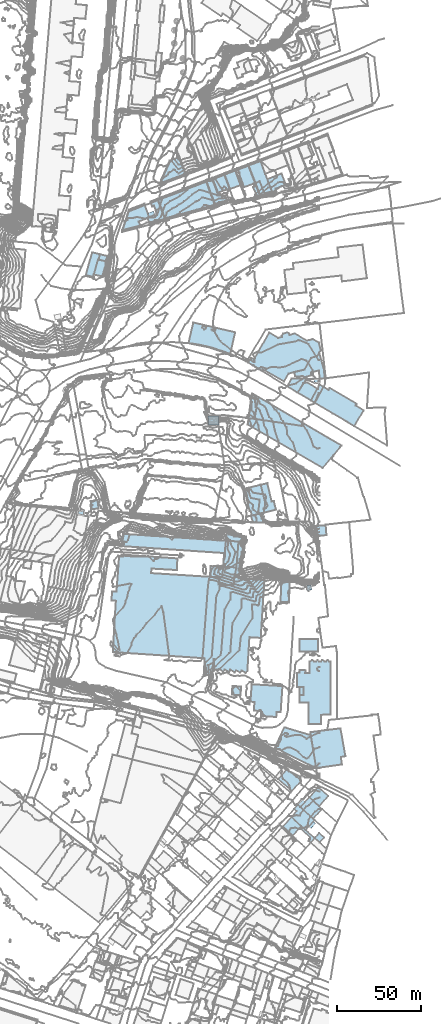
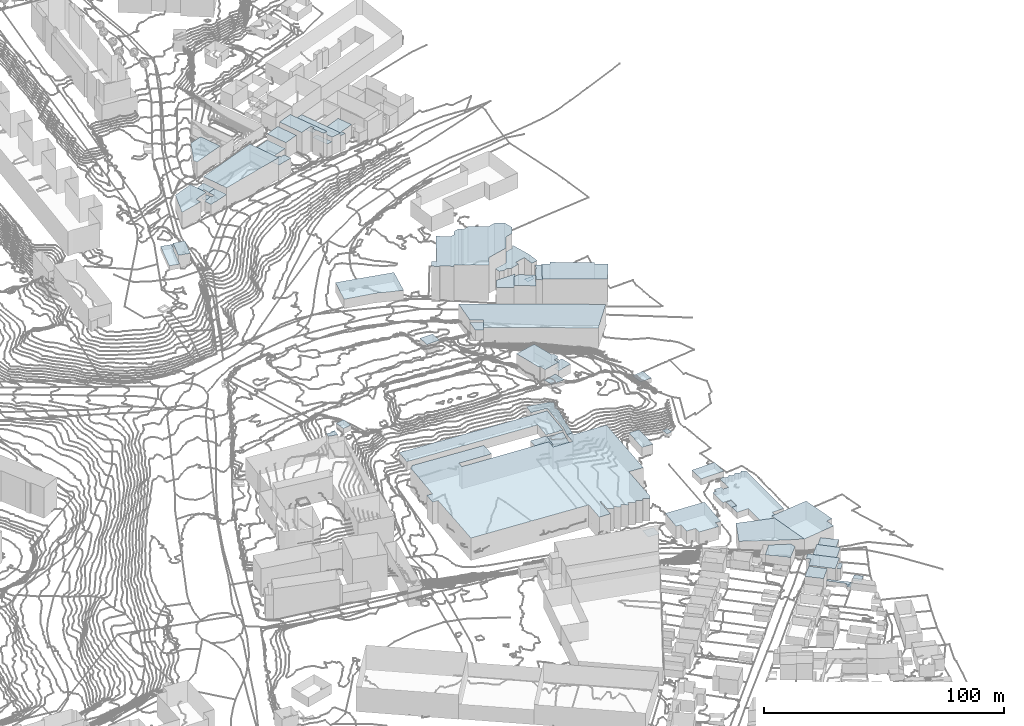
# Not in any storey, part 85 of 419: 56 roofs.
"""IFC2X3 model written with IfcOpenShell, lengths in metres."""

from ifc_helpers import new_model, si_unit, frame, origin_with_axes, place, context, subcontext, project, faceted_brep, element, save


model = new_model("IFC2X3")

# Units and contexts
model_context = context("Model", 3, precision=1e-05, world=origin_with_axes())
body_context = subcontext(model_context, "Body", "Model", "MODEL_VIEW")
ifc_project = project(units=[si_unit("AREAUNIT", "SQUARE_METRE"), si_unit("LENGTHUNIT", "METRE")], contexts=[model_context])

# Roofs
roof_1_placement = place(None, frame((853.2920204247, 416.1976909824, 67.9707989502), z_axis=(0.0, 0.0, 1.0), x_axis=(1.0, 0.0, 0.0)))
element("IfcRoof", 1, at=roof_1_placement, Name="Toiture 0", ShapeType="NOTDEFINED", context=body_context, shape_type="Brep", body=[
    faceted_brep([(63.9, 13.6000000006, 11.4292010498), (58.4, 14.0, 11.4292010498), (23.5, 16.2000000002, 11.4292010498), (23.7000000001, 18.9000000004, 11.4292010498), (38.8, 18.0, 11.4292010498), (39.1000000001, 24.9000000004, 11.4292010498), (6.0, 27.2000000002, 11.4292010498), (4.5, 25.9000000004, 11.4292010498), (3.0, 5.2000000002, 11.4292010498), (0.4, 5.4000000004, 11.4292010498), (0.0, 0.0, 11.4292010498), (2.6000000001, -0.2000000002, 11.4292010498), (0.8, -30.5999999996, 11.4292010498), (55.3, -34.2999999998, 11.4292010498), (54.7000000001, -44.2000000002, 11.4292010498), (59.9, -44.3999999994, 11.4292010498), (61.0, -34.5999999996, 11.4292010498), (60.6000000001, -40.3999999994, 11.4292010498), (63.0, -41.8999999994, 11.4292010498), (63.8, -40.7000000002, 11.4292010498), (66.2000000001, -42.2000000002, 11.4292010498), (67.1000000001, -40.8999999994, 11.4292010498), (69.6000000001, -42.5, 11.4292010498), (70.4, -41.0, 11.4292010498), (73.0, -42.5999999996, 11.4292010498), (73.9, -41.3999999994, 11.4292010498), (76.2000000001, -42.7999999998, 11.4292010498), (77.1000000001, -41.5999999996, 11.4292010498), (79.6000000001, -43.0, 11.4292010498), (80.6000000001, -41.5, 11.4292010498), (81.8, -21.7999999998, 11.4292010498), (88.5, -22.2000000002, 11.4292010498), (90.7000000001, 12.2000000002, 11.4292010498), (75.3, 13.0, 11.4292010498), (75.4, 14.2999999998, 11.4292010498), (72.9, 14.4000000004, 11.4292010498), (63.5, 9.5, 11.4292010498), (60.5, -34.5999999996, 11.4292010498), (72.5, 9.0, 11.4292010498)], [[[0, 1, 2]], [[3, 4, 5]], [[5, 6, 7]], [[8, 9, 10]], [[11, 12, 13]], [[13, 14, 15]], [[16, 17, 18]], [[19, 20, 21]], [[21, 22, 23]], [[23, 24, 25]], [[25, 26, 27]], [[27, 28, 29]], [[30, 31, 32]], [[33, 34, 35]], [[36, 0, 2]], [[3, 5, 7]], [[8, 10, 11]], [[13, 15, 37]], [[16, 18, 19]], [[19, 21, 23]], [[23, 25, 27]], [[27, 29, 30]], [[30, 32, 33]], [[33, 35, 38]], [[2, 3, 7]], [[8, 11, 13]], [[13, 37, 16]], [[16, 19, 23]], [[23, 27, 30]], [[30, 33, 38]], [[2, 7, 8]], [[8, 13, 16]], [[16, 23, 30]], [[30, 38, 36]], [[36, 2, 8]], [[8, 16, 30]], [[30, 36, 8]]]),
])
roof_2_placement = place(None, frame((874.7920204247, 642.9976909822, 81.5520004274), z_axis=(0.0, 0.0, 1.0), x_axis=(1.0, 0.0, 0.0)))
element("IfcRoof", 2, at=roof_2_placement, Name="Toiture 0", ShapeType="NOTDEFINED", context=body_context, shape_type="Brep", body=[
    faceted_brep([(10.4, -0.1999999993, 5.5479995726), (8.1000000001, 6.0, 5.5479995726), (4.7000000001, 4.7000000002, 5.5479995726), (4.3, 1.4000000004, 5.5479995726), (4.1000000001, 2.0, 5.5479995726), (0.0, 0.0, 5.5479995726), (1.2000000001, -3.2999999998, 5.5479995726), (5.6000000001, 1.8000000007, 5.5479995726)], [[[0, 1, 2]], [[3, 4, 5]], [[5, 6, 0]], [[0, 2, 7]], [[7, 3, 5]], [[5, 0, 7]]]),
])
roof_3_placement = place(None, frame((920.1920204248, 669.5976909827, 80.9935986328), z_axis=(0.0, 0.0, 1.0), x_axis=(1.0, 0.0, 0.0)))
element("IfcRoof", 3, at=roof_3_placement, Name="Toiture 0", ShapeType="NOTDEFINED", context=body_context, shape_type="Brep", body=[
    faceted_brep([(10.0, -7.0, 8.4064013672), (6.5, 2.3999999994, 8.4064013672), (0.0, 0.0, 8.4064013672), (3.5, -9.4000000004, 8.4064013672)], [[[0, 1, 2]], [[2, 3, 0]]]),
])
roof_4_placement = place(None, frame((927.7920204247, 672.4976909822, 78.1616983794), z_axis=(0.0, 0.0, 1.0), x_axis=(1.0, 0.0, 0.0)))
element("IfcRoof", 4, at=roof_4_placement, Name="Toiture 0", ShapeType="NOTDEFINED", context=body_context, shape_type="Brep", body=[
    faceted_brep([(6.6000000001, 2.5, 12.8383016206), (0.0, 0.0, 12.8383016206), (4.2000000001, -11.1999999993, 12.8383016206), (10.3, -10.7999999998, 12.8383016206), (9.5, -11.0999999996, 12.8383016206), (11.8, -16.1999999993, 12.8383016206), (9.8, -9.0999999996, 12.8383016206), (13.7000000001, -15.7999999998, 12.8383016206)], [[[0, 1, 2]], [[3, 4, 5]], [[0, 2, 6]], [[3, 5, 7]], [[7, 0, 6]], [[6, 3, 7]]]),
])
roof_5_placement = place(None, frame((882.5920204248, 665.5976909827, 83.25880188), z_axis=(0.0, 0.0, 1.0), x_axis=(1.0, 0.0, 0.0)))
element("IfcRoof", 5, at=roof_5_placement, Name="Toiture 0", ShapeType="NOTDEFINED", context=body_context, shape_type="Brep", body=[
    faceted_brep([(0.7, -1.5, 8.14119812), (14.8, 3.7000000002, 8.14119812), (11.1, 13.5999999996, 8.14119812), (5.2, 11.5, 8.14119812), (0.0, 0.0, 8.14119812)], [[[0, 1, 2]], [[2, 3, 4]], [[4, 0, 2]]]),
])
roof_6_placement = place(None, frame((952.0920204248, 310.1976909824, 76.712000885), z_axis=(0.0, 0.0, 1.0), x_axis=(1.0, 0.0, 0.0)))
element("IfcRoof", 6, at=roof_6_placement, Name="Toiture 0", ShapeType="NOTDEFINED", context=body_context, shape_type="Brep", body=[
    faceted_brep([(4.7, 5.5, 5.587999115), (0.0, 0.0, 5.587999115), (8.1, -7.0, 5.587999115), (13.6, -1.0, 5.587999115), (13.2, 1.4000000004, 5.587999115)], [[[0, 1, 2]], [[2, 3, 4]], [[4, 0, 2]]]),
])
roof_7_placement = place(None, frame((953.4920204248, 415.3976909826, 67.8876001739), z_axis=(0.0, 0.0, 1.0), x_axis=(1.0, 0.0, 0.0)))
element("IfcRoof", 7, at=roof_7_placement, Name="Toiture 0", ShapeType="NOTDEFINED", context=body_context, shape_type="Brep", body=[
    faceted_brep([(0.6, 11.7999999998, 4.7123998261), (0.0, 0.0, 4.7123998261), (5.2, -0.2999999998, 4.7123998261), (5.2999999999, 11.7000000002, 4.7123998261)], [[[0, 1, 2]], [[2, 3, 0]]]),
])
roof_8_placement = place(None, frame((964.8920204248, 281.3976909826, 79.9339981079), z_axis=(0.0, 0.0, 1.0), x_axis=(1.0, 0.0, 0.0)))
element("IfcRoof", 8, at=roof_8_placement, Name="Toiture 0", ShapeType="NOTDEFINED", context=body_context, shape_type="Brep", body=[
    faceted_brep([(5.3999999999, -7.7999999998, 2.0660018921), (6.5, -8.7999999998, 2.0660018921), (8.7999999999, -6.0999999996, 2.0660018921), (0.7999999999, 0.9000000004, 2.0660018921), (0.0, 0.0, 2.0660018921), (6.2, -5.7000000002, 2.0660018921), (5.5, -6.5999999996, 2.0660018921), (6.0, -7.0999999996, 2.0660018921)], [[[0, 1, 2]], [[2, 3, 4]], [[5, 6, 7]], [[7, 0, 2]], [[2, 4, 5]], [[5, 7, 2]]]),
])
roof_9_placement = place(None, frame((959.9920204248, 287.6976909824, 78.2919990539), z_axis=(0.0, 0.0, 1.0), x_axis=(1.0, 0.0, 0.0)))
element("IfcRoof", 9, at=roof_9_placement, Name="Toiture 0", ShapeType="NOTDEFINED", context=body_context, shape_type="Brep", body=[
    faceted_brep([(3.0, 3.5, 9.6080009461), (0.0, 0.0, 9.6080009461), (8.2999999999, -7.7000000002, 9.6080009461), (13.7, -1.7999999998, 9.6080009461), (3.7, 7.4000000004, 9.6080009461), (1.5, 4.9000000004, 9.6080009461)], [[[0, 1, 2]], [[2, 3, 4]], [[4, 5, 0]], [[0, 2, 4]]]),
])
roof_10_placement = place(None, frame((971.1920204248, 338.0976909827, 68.7699966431), z_axis=(0.0, 0.0, 1.0), x_axis=(1.0, 0.0, 0.0)))
element("IfcRoof", 10, at=roof_10_placement, Name="Toiture 0", ShapeType="NOTDEFINED", context=body_context, shape_type="Brep", body=[
    faceted_brep([(3.5, -21.2000000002, 9.6300033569), (5.5, -21.0, 9.6300033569), (18.8, -19.1000000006, 9.6300033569), (18.1, -14.7000000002, 9.6300033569), (20.8, -14.2000000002, 9.6300033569), (17.9, 2.2999999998, 9.6300033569), (0.0, 0.0, 9.6300033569)], [[[0, 1, 2]], [[3, 4, 5]], [[5, 6, 0]], [[0, 2, 3]], [[3, 5, 0]]]),
])
roof_11_placement = place(None, frame((964.6920204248, 393.1976909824, 67.3694023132), z_axis=(0.0, 0.0, 1.0), x_axis=(1.0, 0.0, 0.0)))
element("IfcRoof", 11, at=roof_11_placement, Name="Toiture 0", ShapeType="NOTDEFINED", context=body_context, shape_type="Brep", body=[
    faceted_brep([(0.1, -7.3999999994, 3.2305976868), (11.1, -7.2999999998, 3.2305976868), (11.0, 0.1000000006, 3.2305976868), (0.0, 0.0, 3.2305976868)], [[[0, 1, 2]], [[2, 3, 0]]]),
])
roof_12_placement = place(None, frame((970.5920204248, 299.4976909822, 76.8079986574), z_axis=(0.0, 0.0, 1.0), x_axis=(1.0, 0.0, 0.0)))
element("IfcRoof", 12, at=roof_12_placement, Name="Toiture 0", ShapeType="NOTDEFINED", context=body_context, shape_type="Brep", body=[
    faceted_brep([(5.2, 6.0, 8.7920013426), (0.0, 0.0, 8.7920013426), (5.9, -5.1999999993, 8.7920013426), (11.1, 0.8000000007, 8.7920013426)], [[[0, 1, 2]], [[2, 3, 0]]]),
])
roof_13_placement = place(None, frame((880.7920204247, 654.5976909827, 79.4694980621), z_axis=(0.0, 0.0, 1.0), x_axis=(1.0, 0.0, 0.0)))
element("IfcRoof", 13, at=roof_13_placement, Name="Toiture 0", ShapeType="NOTDEFINED", context=body_context, shape_type="Brep", body=[
    faceted_brep([(4.4, -11.7999999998, 11.0305019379), (34.1000000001, -3.7000000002, 11.0305019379), (28.7000000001, 10.8999999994, 11.0305019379), (0.0, 0.0, 11.0305019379)], [[[0, 1, 2]], [[2, 3, 0]]]),
])
roof_14_placement = place(None, frame((916.7920204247, 425.6976909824, 72.122000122), z_axis=(0.0, 0.0, 1.0), x_axis=(1.0, 0.0, 0.0)))
element("IfcRoof", 14, at=roof_14_placement, Name="Toiture 0", ShapeType="NOTDEFINED", context=body_context, shape_type="Brep", body=[
    faceted_brep([(2.2000000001, 4.0, 4.977999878), (0.4, 4.1000000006, 4.977999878), (0.0, 0.0, 4.977999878), (9.0, -0.5, 4.977999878), (9.4, 4.9000000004, 4.977999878), (10.6000000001, 10.0, 4.977999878), (2.7000000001, 10.6000000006, 4.977999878)], [[[0, 1, 2]], [[2, 3, 4]], [[4, 5, 6]], [[0, 2, 4]], [[4, 6, 0]]]),
])
roof_15_placement = place(None, frame((898.8920204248, 568.6976909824, 69.1679992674), z_axis=(0.0, 0.0, 1.0), x_axis=(1.0, 0.0, 0.0)))
element("IfcRoof", 15, at=roof_15_placement, Name="Toiture 0", ShapeType="NOTDEFINED", context=body_context, shape_type="Brep", body=[
    faceted_brep([(24.7, -6.7000000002, 4.8320007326), (25.2, -4.5999999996, 4.8320007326), (27.7, 6.5, 4.8320007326), (2.8999999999, 12.2999999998, 4.8320007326), (0.0, 0.0, 4.8320007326), (12.7, -2.5999999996, 4.8320007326)], [[[0, 1, 2]], [[2, 3, 4]], [[5, 0, 2]], [[2, 4, 5]]]),
])
roof_16_placement = place(None, frame((950.1920204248, 328.9976909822, 68.682399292), z_axis=(0.0, 0.0, 1.0), x_axis=(1.0, 0.0, 0.0)))
element("IfcRoof", 16, at=roof_16_placement, Name="Toiture 0", ShapeType="NOTDEFINED", context=body_context, shape_type="Brep", body=[
    faceted_brep([(24.5, -12.0999999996, 9.717600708), (21.3, 7.2000000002, 9.717600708), (5.6, 12.0, 9.717600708), (0.0, 0.0, 9.717600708), (17.5, -9.0, 9.717600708)], [[[0, 1, 2]], [[2, 3, 4]], [[4, 0, 2]]]),
])
roof_17_placement = place(None, frame((859.5920204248, 448.3976909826, 73.6399993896), z_axis=(0.0, 0.0, 1.0), x_axis=(1.0, 0.0, 0.0)))
element("IfcRoof", 17, at=roof_17_placement, Name="Toiture 0", ShapeType="NOTDEFINED", context=body_context, shape_type="Brep", body=[
    faceted_brep([(60.5, -4.0999999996, 4.5600006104), (59.9, -12.0999999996, 4.5600006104), (67.8, -12.7000000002, 4.5600006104), (69.0, 2.7000000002, 4.5600006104), (0.5, 7.2999999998, 4.5600006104), (0.0, 0.0, 4.5600006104)], [[[0, 1, 2]], [[3, 4, 5]], [[0, 2, 3]], [[3, 5, 0]]]),
])
roof_18_placement = place(None, frame((973.7920204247, 533.3976909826, 65.5460006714), z_axis=(0.0, 0.0, 1.0), x_axis=(1.0, 0.0, 0.0)))
element("IfcRoof", 18, at=roof_18_placement, Name="Toiture 0", ShapeType="NOTDEFINED", context=body_context, shape_type="Brep", body=[
    faceted_brep([(8.1000000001, 7.7000000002, 14.0539993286), (5.1000000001, 9.4000000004, 14.0539993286), (0.0, 0.0, 14.0539993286), (23.4, -13.7999999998, 14.0539993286), (28.9, -4.5, 14.0539993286), (24.2000000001, -1.5999999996, 14.0539993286), (24.7000000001, -0.5999999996, 14.0539993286), (8.8, 8.7999999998, 14.0539993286)], [[[0, 1, 2]], [[2, 3, 4]], [[5, 6, 7]], [[0, 2, 4]], [[5, 7, 0]], [[0, 4, 5]]]),
])
roof_19_placement = place(None, frame((840.9920204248, 475.0976909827, 85.326399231), z_axis=(0.0, 0.0, 1.0), x_axis=(1.0, 0.0, 0.0)))
element("IfcRoof", 19, at=roof_19_placement, Name="Toiture 0", ShapeType="NOTDEFINED", context=body_context, shape_type="Brep", body=[
    faceted_brep([(4.7, -4.2000000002, 2.673600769), (4.0, 0.7000000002, 2.673600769), (0.0, 0.0, 2.673600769), (0.7999999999, -4.7999999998, 2.673600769)], [[[0, 1, 2]], [[2, 3, 0]]]),
])
roof_20_placement = place(None, frame((961.6920204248, 551.6976909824, 67.0032022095), z_axis=(0.0, 0.0, 1.0), x_axis=(1.0, 0.0, 0.0)))
element("IfcRoof", 20, at=roof_20_placement, Name="Toiture 0", ShapeType="NOTDEFINED", context=body_context, shape_type="Brep", body=[
    faceted_brep([(17.5, 1.7999999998, 10.7967977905), (14.8, 11.4000000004, 10.7967977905), (13.6, 9.4000000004, 10.7967977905), (10.0, 8.4000000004, 10.7967977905), (6.0, 1.4000000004, 10.7967977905), (0.0, 0.0, 10.7967977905), (0.6, -2.5, 10.7967977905), (2.7000000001, -2.7999999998, 10.7967977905), (4.8, -2.2999999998, 10.7967977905), (6.0, -3.0999999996, 10.7967977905), (10.1, -1.8999999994, 10.7967977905), (14.6, 0.9000000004, 10.7967977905), (15.1, -4.0999999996, 10.7967977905), (18.1, -3.5999999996, 10.7967977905), (9.8, -0.2000000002, 10.7967977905)], [[[0, 1, 2]], [[2, 3, 4]], [[4, 5, 6]], [[6, 7, 8]], [[8, 9, 10]], [[11, 12, 13]], [[13, 0, 2]], [[4, 6, 8]], [[8, 10, 14]], [[11, 13, 2]], [[2, 4, 8]], [[14, 11, 2]], [[2, 8, 14]]]),
])
roof_21_placement = place(None, frame((935.6920204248, 356.1976909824, 68.0809967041), z_axis=(0.0, 0.0, 1.0), x_axis=(1.0, 0.0, 0.0)))
element("IfcRoof", 21, at=roof_21_placement, Name="Toiture 0", ShapeType="NOTDEFINED", context=body_context, shape_type="Brep", body=[
    faceted_brep([(17.9, -6.2999999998, 6.6190032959), (19.0, 9.2000000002, 6.6190032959), (0.8, 10.2999999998, 6.6190032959), (0.0, 0.0, 6.6190032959), (2.4, -0.2000000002, 6.6190032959), (2.0, -5.2999999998, 6.6190032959), (6.3, -5.5999999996, 6.6190032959), (6.2000000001, -8.5, 6.6190032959), (15.3, -9.0999999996, 6.6190032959), (15.5, -6.0999999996, 6.6190032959)], [[[0, 1, 2]], [[2, 3, 4]], [[4, 5, 6]], [[6, 7, 8]], [[9, 0, 2]], [[2, 4, 6]], [[6, 8, 9]], [[9, 2, 6]]]),
])
roof_22_placement = place(None, frame((934.8920204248, 526.3976909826, 65.8939987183), z_axis=(0.0, 0.0, 1.0), x_axis=(1.0, 0.0, 0.0)))
element("IfcRoof", 22, at=roof_22_placement, Name="Toiture 0", ShapeType="NOTDEFINED", context=body_context, shape_type="Brep", body=[
    faceted_brep([(54.7, -18.4000000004, 10.6060012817), (1.7999999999, 12.5999999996, 10.6060012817), (0.0, 0.0, 10.6060012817), (4.8999999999, -2.7999999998, 10.6060012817), (2.1, -7.5999999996, 10.6060012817), (43.5, -31.5999999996, 10.6060012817)], [[[0, 1, 2]], [[3, 4, 5]], [[0, 2, 3]], [[3, 5, 0]]]),
])
roof_23_placement = place(None, frame((963.6920204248, 539.3976909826, 66.1481985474), z_axis=(0.0, 0.0, 1.0), x_axis=(1.0, 0.0, 0.0)))
element("IfcRoof", 23, at=roof_23_placement, Name="Toiture 0", ShapeType="NOTDEFINED", context=body_context, shape_type="Brep", body=[
    faceted_brep([(3.3, 5.7000000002, 9.8518014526), (0.0, 0.0, 9.8518014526), (7.8, -4.5999999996, 9.8518014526), (11.6, 2.4000000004, 9.8518014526), (5.5, 6.0, 9.8518014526)], [[[0, 1, 2]], [[2, 3, 4]], [[4, 0, 2]]]),
])
roof_24_placement = place(None, frame((924.6920204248, 360.3976909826, 67.922800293), z_axis=(0.0, 0.0, 1.0), x_axis=(1.0, 0.0, 0.0)))
element("IfcRoof", 24, at=roof_24_placement, Name="Toiture 0", ShapeType="NOTDEFINED", context=body_context, shape_type="Brep", body=[
    faceted_brep([(0.0, 0.0, 2.577199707), (5.1, -0.4000000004, 2.577199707), (5.5, 4.7000000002, 2.577199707), (0.3, 5.0999999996, 2.577199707)], [[[0, 1, 2]], [[2, 3, 0]]]),
])
roof_25_placement = place(None, frame((963.6920204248, 295.0976909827, 78.1581996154), z_axis=(0.0, 0.0, 1.0), x_axis=(1.0, 0.0, 0.0)))
element("IfcRoof", 25, at=roof_25_placement, Name="Toiture 0", ShapeType="NOTDEFINED", context=body_context, shape_type="Brep", body=[
    faceted_brep([(2.8, 3.2000000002, 5.0418003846), (0.0, 0.0, 5.0418003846), (1.6, -1.5, 5.0418003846), (4.3, 1.7999999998, 5.0418003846)], [[[0, 1, 2]], [[2, 3, 0]]]),
])
roof_26_placement = place(None, frame((921.0920204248, 451.6976909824, 74.3155002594), z_axis=(0.0, 0.0, 1.0), x_axis=(1.0, 0.0, 0.0)))
element("IfcRoof", 26, at=roof_26_placement, Name="Toiture 0", ShapeType="NOTDEFINED", context=body_context, shape_type="Brep", body=[
    faceted_brep([(0.7, 4.7999999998, 5.1844997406), (0.0, 0.0, 5.1844997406), (7.5, -0.5999999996, 5.1844997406), (6.3, -16.0, 5.1844997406), (5.1, -21.0999999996, 5.1844997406), (7.6, -21.2000000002, 5.1844997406), (12.1, 2.4000000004, 5.1844997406)], [[[0, 1, 2]], [[3, 4, 5]], [[6, 0, 2]], [[2, 3, 5]], [[5, 6, 2]]]),
])
roof_27_placement = place(None, frame((974.7920204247, 460.3976909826, 71.9800033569), z_axis=(0.0, 0.0, 1.0), x_axis=(1.0, 0.0, 0.0)))
element("IfcRoof", 27, at=roof_27_placement, Name="Toiture 0", ShapeType="NOTDEFINED", context=body_context, shape_type="Brep", body=[
    faceted_brep([(0.0, 0.0, 2.3199966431), (0.8, -5.7000000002, 2.3199966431), (6.0, -5.5, 2.3199966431), (5.5, 0.4000000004, 2.3199966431)], [[[0, 1, 2]], [[2, 3, 0]]]),
])
roof_28_placement = place(None, frame((936.0920204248, 466.3976909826, 79.3064013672), z_axis=(0.0, 0.0, 1.0), x_axis=(1.0, 0.0, 0.0)))
element("IfcRoof", 28, at=roof_28_placement, Name="Toiture 0", ShapeType="NOTDEFINED", context=body_context, shape_type="Brep", body=[
    faceted_brep([(1.1, -4.0999999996, 2.5935986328), (7.3, -3.9000000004, 2.5935986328), (6.1, 1.5999999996, 2.5935986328), (0.0, 0.0, 2.5935986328)], [[[0, 1, 2]], [[2, 3, 0]]]),
])
roof_29_placement = place(None, frame((913.0920204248, 666.8976909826, 81.3671994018), z_axis=(0.0, 0.0, 1.0), x_axis=(1.0, 0.0, 0.0)))
element("IfcRoof", 29, at=roof_29_placement, Name="Toiture 0", ShapeType="NOTDEFINED", context=body_context, shape_type="Brep", body=[
    faceted_brep([(7.1, 2.7000000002, 4.8328005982), (0.0, 0.0, 4.8328005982), (3.3, -8.7999999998, 4.8328005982), (10.5, -6.2999999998, 4.8328005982)], [[[0, 1, 2]], [[2, 3, 0]]]),
])
roof_30_placement = place(None, frame((969.0920204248, 425.1976909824, 67.7818008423), z_axis=(0.0, 0.0, 1.0), x_axis=(1.0, 0.0, 0.0)))
element("IfcRoof", 30, at=roof_30_placement, Name="Toiture 0", ShapeType="NOTDEFINED", context=body_context, shape_type="Brep", body=[
    faceted_brep([(0.4, -3.0, 1.9181991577), (2.8, -2.5999999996, 1.9181991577), (2.4, 0.4000000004, 1.9181991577), (0.0, 0.0, 1.9181991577)], [[[0, 1, 2]], [[2, 3, 0]]]),
])
roof_31_placement = place(None, frame((910.4920204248, 525.6976909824, 71.4103997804), z_axis=(0.0, 0.0, 1.0), x_axis=(1.0, 0.0, 0.0)))
element("IfcRoof", 31, at=roof_31_placement, Name="Toiture 0", ShapeType="NOTDEFINED", context=body_context, shape_type="Brep", body=[
    faceted_brep([(0.2999999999, -5.3999999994, 4.7896002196), (6.2999999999, -5.2999999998, 4.7896002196), (6.2, 0.0, 4.7896002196), (0.0, 0.0, 4.7896002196)], [[[0, 1, 2]], [[2, 3, 0]]]),
])
roof_32_placement = place(None, frame((934.0920204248, 520.4976909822, 69.7540005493), z_axis=(0.0, 0.0, 1.0), x_axis=(1.0, 0.0, 0.0)))
element("IfcRoof", 32, at=roof_32_placement, Name="Toiture 0", ShapeType="NOTDEFINED", context=body_context, shape_type="Brep", body=[
    faceted_brep([(5.7, 3.1000000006, 5.4459994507), (0.8, 5.9000000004, 5.4459994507), (0.0, 0.0, 5.4459994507), (2.9, -1.6999999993, 5.4459994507)], [[[0, 1, 2]], [[2, 3, 0]]]),
])
roof_33_placement = place(None, frame((876.4920204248, 652.7976909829, 83.2692002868), z_axis=(0.0, 0.0, 1.0), x_axis=(1.0, 0.0, 0.0)))
element("IfcRoof", 33, at=roof_33_placement, Name="Toiture 0", ShapeType="NOTDEFINED", context=body_context, shape_type="Brep", body=[
    faceted_brep([(3.0, -5.1000000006, 3.9307997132), (6.4, -3.8000000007, 3.9307997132), (4.2999999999, 1.7999999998, 3.9307997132), (0.0, 0.0, 3.9307997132), (0.9, -2.9000000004, 3.9307997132), (2.0, -2.4000000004, 3.9307997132)], [[[0, 1, 2]], [[2, 3, 4]], [[5, 0, 2]], [[2, 4, 5]]]),
])
roof_34_placement = place(None, frame((963.2920204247, 364.7976909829, 68.5444026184), z_axis=(0.0, 0.0, 1.0), x_axis=(1.0, 0.0, 0.0)))
element("IfcRoof", 34, at=roof_34_placement, Name="Toiture 0", ShapeType="NOTDEFINED", context=body_context, shape_type="Brep", body=[
    faceted_brep([(3.8, -4.8000000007, 3.2555973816), (1.5, -4.7000000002, 3.2555973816), (1.5, -9.1000000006, 3.2555973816), (6.9, -9.0, 3.2555973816), (6.9, -21.8000000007, 3.2555973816), (14.2000000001, -21.8000000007, 3.2555973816), (14.3, -16.4000000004, 3.2555973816), (19.8, -16.3000000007, 3.2555973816), (19.8, 15.1999999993, 3.2555973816), (19.1000000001, 15.1999999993, 3.2555973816), (18.1000000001, 16.1999999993, 3.2555973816), (17.2000000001, 15.1999999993, 3.2555973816), (16.2000000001, 15.2999999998, 3.2555973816), (15.0, 16.1999999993, 3.2555973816), (14.2000000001, 15.1999999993, 3.2555973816), (13.0, 15.1999999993, 3.2555973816), (12.1000000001, 16.0999999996, 3.2555973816), (11.2000000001, 15.1999999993, 3.2555973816), (10.0, 15.1999999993, 3.2555973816), (9.0, 16.0999999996, 3.2555973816), (7.4, 15.0999999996, 3.2555973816), (4.9, 8.5, 3.2555973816), (5.0, 10.0, 3.2555973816), (1.5, 10.0999999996, 3.2555973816), (1.5, 8.5999999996, 3.2555973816), (0.0, 8.5, 3.2555973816), (0.0, 0.0, 3.2555973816), (3.9, 0.0, 3.2555973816), (7.5, 8.5, 3.2555973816)], [[[0, 1, 2]], [[3, 4, 5]], [[6, 7, 8]], [[9, 10, 11]], [[12, 13, 14]], [[15, 16, 17]], [[18, 19, 20]], [[21, 22, 23]], [[24, 25, 26]], [[0, 2, 3]], [[3, 5, 6]], [[6, 8, 9]], [[11, 12, 14]], [[17, 18, 20]], [[21, 23, 24]], [[24, 26, 27]], [[27, 0, 3]], [[3, 6, 9]], [[15, 17, 20]], [[21, 24, 27]], [[27, 3, 9]], [[14, 15, 20]], [[28, 21, 27]], [[27, 9, 11]], [[11, 14, 20]], [[28, 27, 11]], [[11, 20, 28]]]),
])
roof_35_placement = place(None, frame((842.7920204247, 609.4976909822, 84.8344024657), z_axis=(0.0, 0.0, 1.0), x_axis=(1.0, 0.0, 0.0)))
element("IfcRoof", 35, at=roof_35_placement, Name="Toiture 0", ShapeType="NOTDEFINED", context=body_context, shape_type="Brep", body=[
    faceted_brep([(5.0, -1.1999999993, 6.3655975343), (7.6000000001, 7.7000000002, 6.3655975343), (2.5, 8.8000000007, 6.3655975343), (0.0, 0.0, 6.3655975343)], [[[0, 1, 2]], [[2, 3, 0]]]),
])
roof_36_placement = place(None, frame((934.2920204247, 557.1976909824, 67.2743998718), z_axis=(0.0, 0.0, 1.0), x_axis=(1.0, 0.0, 0.0)))
element("IfcRoof", 36, at=roof_36_placement, Name="Toiture 0", ShapeType="NOTDEFINED", context=body_context, shape_type="Brep", body=[
    faceted_brep([(0.0, 0.0, 18.1256001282), (2.8, -1.7999999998, 18.1256001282), (3.1000000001, -1.5, 18.1256001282), (8.0, -4.7999999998, 18.1256001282), (8.6000000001, -3.8999999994, 18.1256001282), (21.2000000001, -11.2000000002, 18.1256001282), (23.9, -6.5, 18.1256001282), (33.4, -4.0999999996, 18.1256001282), (37.4, 2.9000000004, 18.1256001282), (41.0, 3.9000000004, 18.1256001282), (43.1000000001, 7.6000000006, 18.1256001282), (42.0, 11.9000000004, 18.1256001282), (38.3, 13.9000000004, 18.1256001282), (34.7000000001, 13.1000000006, 18.1256001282), (27.5, 17.2999999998, 18.1256001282), (24.5, 16.4000000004, 18.1256001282), (24.4, 17.2000000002, 18.1256001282), (23.2000000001, 17.9000000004, 18.1256001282), (20.7000000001, 17.2000000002, 18.1256001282), (19.9, 15.9000000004, 18.1256001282), (17.8, 14.7000000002, 18.1256001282), (12.5, 17.9000000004, 18.1256001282), (3.4, 1.9000000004, 18.1256001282), (1.7000000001, 2.9000000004, 18.1256001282), (20.1000000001, 15.2999999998, 18.1256001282)], [[[0, 1, 2]], [[2, 3, 4]], [[4, 5, 6]], [[6, 7, 8]], [[8, 9, 10]], [[10, 11, 12]], [[13, 14, 15]], [[15, 16, 17]], [[17, 18, 19]], [[20, 21, 22]], [[22, 23, 0]], [[0, 2, 4]], [[4, 6, 8]], [[8, 10, 12]], [[15, 17, 19]], [[24, 20, 22]], [[22, 0, 4]], [[4, 8, 12]], [[13, 15, 19]], [[24, 22, 4]], [[4, 12, 13]], [[13, 19, 24]], [[24, 4, 13]]]),
])
roof_37_placement = place(None, frame((957.3920204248, 543.0976909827, 66.6909973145), z_axis=(0.0, 0.0, 1.0), x_axis=(1.0, 0.0, 0.0)))
element("IfcRoof", 37, at=roof_37_placement, Name="Toiture 0", ShapeType="NOTDEFINED", context=body_context, shape_type="Brep", body=[
    faceted_brep([(2.7, 4.5999999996, 8.3090026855), (0.0, 0.0, 8.3090026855), (6.2999999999, -3.7000000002, 8.3090026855), (11.5, 4.5999999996, 8.3090026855)], [[[0, 1, 2]], [[2, 3, 0]]]),
])
roof_38_placement = place(None, frame((832.8920204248, 467.3976909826, 85.0730003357), z_axis=(0.0, 0.0, 1.0), x_axis=(1.0, 0.0, 0.0)))
element("IfcRoof", 38, at=roof_38_placement, Name="Toiture 0", ShapeType="NOTDEFINED", context=body_context, shape_type="Brep", body=[
    faceted_brep([(2.2999999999, 1.7999999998, 3.8269996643), (0.2, 2.2000000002, 3.8269996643), (0.0, 0.0, 3.8269996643), (4.0, -0.9000000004, 3.8269996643), (4.2, 2.2000000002, 3.8269996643), (2.2999999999, 2.2000000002, 3.8269996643)], [[[0, 1, 2]], [[2, 3, 4]], [[4, 5, 0]], [[0, 2, 4]]]),
])
roof_39_placement = place(None, frame((938.7920204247, 663.7976909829, 77.6844009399), z_axis=(0.0, 0.0, 1.0), x_axis=(1.0, 0.0, 0.0)))
element("IfcRoof", 39, at=roof_39_placement, Name="Toiture 0", ShapeType="NOTDEFINED", context=body_context, shape_type="Brep", body=[
    faceted_brep([(2.7000000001, -7.1000000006, 6.8155990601), (5.4, -6.6000000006, 6.8155990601), (2.4, 1.0, 6.8155990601), (0.0, 0.0, 6.8155990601)], [[[0, 1, 2]], [[2, 3, 0]]]),
])
roof_40_placement = place(None, frame((845.7920204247, 618.1976909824, 84.6286019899), z_axis=(0.0, 0.0, 1.0), x_axis=(1.0, 0.0, 0.0)))
element("IfcRoof", 40, at=roof_40_placement, Name="Toiture 0", ShapeType="NOTDEFINED", context=body_context, shape_type="Brep", body=[
    faceted_brep([(0.0, 0.0, 3.6713980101), (4.6000000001, -1.0, 3.6713980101), (5.5, 2.1000000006, 3.6713980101), (0.5, 3.2999999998, 3.6713980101)], [[[0, 1, 2]], [[2, 3, 0]]]),
])
roof_41_placement = place(None, frame((909.4920204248, 665.4976909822, 79.1334014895), z_axis=(0.0, 0.0, 1.0), x_axis=(1.0, 0.0, 0.0)))
element("IfcRoof", 41, at=roof_41_placement, Name="Toiture 0", ShapeType="NOTDEFINED", context=body_context, shape_type="Brep", body=[
    faceted_brep([(3.6, 1.4000000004, 7.5665985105), (0.0, 0.0, 7.5665985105), (5.4, -14.5999999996, 7.5665985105), (12.4, -12.6999999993, 7.5665985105), (11.1, -9.1999999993, 7.5665985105), (9.2999999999, -9.8999999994, 7.5665985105), (8.7999999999, -8.7999999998, 7.5665985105), (7.7999999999, -9.1999999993, 7.5665985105)], [[[0, 1, 2]], [[2, 3, 4]], [[5, 6, 7]], [[7, 0, 2]], [[2, 4, 5]], [[5, 7, 2]]]),
])
roof_42_placement = place(None, frame((874.8920204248, 645.9976909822, 83.9579986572), z_axis=(0.0, 0.0, 1.0), x_axis=(1.0, 0.0, 0.0)))
element("IfcRoof", 42, at=roof_42_placement, Name="Toiture 0", ShapeType="NOTDEFINED", context=body_context, shape_type="Brep", body=[
    faceted_brep([(0.7, -2.2999999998, 2.8420013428), (4.0, -1.0, 2.8420013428), (3.2, 1.2000000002, 2.8420013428), (0.0, 0.0, 2.8420013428)], [[[0, 1, 2]], [[2, 3, 0]]]),
])
roof_43_placement = place(None, frame((971.4920204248, 534.7976909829, 65.9439987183), z_axis=(0.0, 0.0, 1.0), x_axis=(1.0, 0.0, 0.0)))
element("IfcRoof", 43, at=roof_43_placement, Name="Toiture 0", ShapeType="NOTDEFINED", context=body_context, shape_type="Brep", body=[
    faceted_brep([(3.7999999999, 7.0, 13.1560012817), (0.0, 0.0, 13.1560012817), (2.2999999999, -1.4000000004, 13.1560012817), (7.4, 8.0, 13.1560012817), (4.9, 9.5, 13.1560012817), (4.2, 6.7999999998, 13.1560012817)], [[[0, 1, 2]], [[2, 3, 4]], [[5, 0, 2]], [[2, 4, 5]]]),
])
roof_44_placement = place(None, frame((837.8920204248, 608.5976909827, 85.9510025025), z_axis=(0.0, 0.0, 1.0), x_axis=(1.0, 0.0, 0.0)))
element("IfcRoof", 44, at=roof_44_placement, Name="Toiture 0", ShapeType="NOTDEFINED", context=body_context, shape_type="Brep", body=[
    faceted_brep([(7.3999999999, 9.7000000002, 2.2489974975), (7.8999999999, 9.5999999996, 2.2489974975), (8.3999999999, 12.8999999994, 2.2489974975), (3.8999999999, 14.0, 2.2489974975), (0.0, 0.0, 2.2489974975), (4.3999999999, -1.1000000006, 2.2489974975), (4.8999999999, 0.8999999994, 2.2489974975)], [[[0, 1, 2]], [[2, 3, 4]], [[4, 5, 6]], [[0, 2, 4]], [[4, 6, 0]]]),
])
roof_45_placement = place(None, frame((931.9920204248, 482.4976909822, 78.2491983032), z_axis=(0.0, 0.0, 1.0), x_axis=(1.0, 0.0, 0.0)))
element("IfcRoof", 45, at=roof_45_placement, Name="Toiture 0", ShapeType="NOTDEFINED", context=body_context, shape_type="Brep", body=[
    faceted_brep([(10.2, -14.5, 8.7508016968), (12.0, -14.0999999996, 8.7508016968), (11.5, -11.6999999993, 8.7508016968), (13.0, -11.3999999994, 8.7508016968), (13.7999999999, -10.0999999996, 8.7508016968), (13.4, -8.3999999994, 8.7508016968), (12.2999999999, -7.6999999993, 8.7508016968), (9.7999999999, 2.3000000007, 8.7508016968), (0.0, 0.0, 8.7508016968), (3.2999999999, -13.1999999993, 8.7508016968), (3.9, -13.0, 8.7508016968), (4.6, -15.8999999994, 8.7508016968)], [[[0, 1, 2]], [[2, 3, 4]], [[4, 5, 6]], [[6, 7, 8]], [[8, 9, 10]], [[10, 11, 0]], [[2, 4, 6]], [[6, 8, 10]], [[10, 0, 2]], [[2, 6, 10]]]),
])
roof_46_placement = place(None, frame((859.6920204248, 635.7976909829, 82.8152991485), z_axis=(0.0, 0.0, 1.0), x_axis=(1.0, 0.0, 0.0)))
element("IfcRoof", 46, at=roof_46_placement, Name="Toiture 0", ShapeType="NOTDEFINED", context=body_context, shape_type="Brep", body=[
    faceted_brep([(0.0, 0.0, 8.3847008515), (10.6, 2.6999999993, 8.3847008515), (9.8, 5.1999999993, 8.3847008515), (15.8, 7.3999999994, 8.3847008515), (15.9, 7.8999999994, 8.3847008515), (13.1, 15.6999999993, 8.3847008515), (3.9, 12.1999999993, 8.3847008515)], [[[0, 1, 2]], [[2, 3, 4]], [[4, 5, 6]], [[6, 0, 2]], [[2, 4, 6]]]),
])
roof_47_placement = place(None, frame((934.3920204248, 674.9976909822, 77.6424002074), z_axis=(0.0, 0.0, 1.0), x_axis=(1.0, 0.0, 0.0)))
element("IfcRoof", 47, at=roof_47_placement, Name="Toiture 0", ShapeType="NOTDEFINED", context=body_context, shape_type="Brep", body=[
    faceted_brep([(14.3999999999, -17.0, 9.2575997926), (7.0, 2.6000000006, 9.2575997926), (0.0, 0.0, 9.2575997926), (4.3999999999, -11.1999999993, 9.2575997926), (6.7999999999, -10.1999999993, 9.2575997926), (9.7999999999, -17.7999999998, 9.2575997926)], [[[0, 1, 2]], [[2, 3, 4]], [[4, 5, 0]], [[0, 2, 4]]]),
])
roof_48_placement = place(None, frame((945.6920204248, 665.9976909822, 77.320702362), z_axis=(0.0, 0.0, 1.0), x_axis=(1.0, 0.0, 0.0)))
element("IfcRoof", 48, at=roof_48_placement, Name="Toiture 0", ShapeType="NOTDEFINED", context=body_context, shape_type="Brep", body=[
    faceted_brep([(3.1, -8.0, 8.179297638), (5.6, -7.5, 8.179297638), (4.8, -5.5999999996, 8.179297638), (11.1, -3.2999999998, 8.179297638), (8.5, 3.4000000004, 8.179297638), (0.0, 0.0, 8.179297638)], [[[0, 1, 2]], [[2, 3, 4]], [[4, 5, 0]], [[0, 2, 4]]]),
])
roof_49_placement = place(None, frame((973.2920204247, 547.4976909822, 66.6039978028), z_axis=(0.0, 0.0, 1.0), x_axis=(1.0, 0.0, 0.0)))
element("IfcRoof", 49, at=roof_49_placement, Name="Toiture 0", ShapeType="NOTDEFINED", context=body_context, shape_type="Brep", body=[
    faceted_brep([(4.0, 0.1000000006, 4.3960021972), (3.5, 0.1000000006, 4.3960021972), (0.0, 0.0, 4.3960021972), (0.3, -2.3999999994, 4.3960021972), (3.5, -1.6999999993, 4.3960021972)], [[[0, 1, 2]], [[2, 3, 4]], [[4, 0, 2]]]),
])
roof_50_placement = place(None, frame((941.7920204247, 484.7976909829, 78.0858007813), z_axis=(0.0, 0.0, 1.0), x_axis=(1.0, 0.0, 0.0)))
element("IfcRoof", 50, at=roof_50_placement, Name="Toiture 0", ShapeType="NOTDEFINED", context=body_context, shape_type="Brep", body=[
    faceted_brep([(1.7000000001, -14.0, 4.6141992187), (2.2000000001, -16.4000000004, 4.6141992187), (9.0, -14.7000000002, 4.6141992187), (7.8, -9.6000000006, 4.6141992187), (6.5, -9.8000000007, 4.6141992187), (3.9, 1.0, 4.6141992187), (0.0, 0.0, 4.6141992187), (2.5, -10.0, 4.6141992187), (3.6000000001, -10.7000000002, 4.6141992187), (3.2000000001, -13.7000000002, 4.6141992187), (4.0, -12.4000000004, 4.6141992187)], [[[0, 1, 2]], [[2, 3, 4]], [[4, 5, 6]], [[6, 7, 8]], [[9, 0, 2]], [[2, 4, 6]], [[10, 9, 2]], [[2, 6, 8]], [[8, 10, 2]]]),
])
roof_51_placement = place(None, frame((970.1920204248, 282.1976909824, 80.2448001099), z_axis=(0.0, 0.0, 1.0), x_axis=(1.0, 0.0, 0.0)))
element("IfcRoof", 51, at=roof_51_placement, Name="Toiture 0", ShapeType="NOTDEFINED", context=body_context, shape_type="Brep", body=[
    faceted_brep([(2.7000000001, 3.0, 5.7551998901), (0.0, 0.0, 5.7551998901), (1.3, -1.0999999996, 5.7551998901), (4.0, 1.9000000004, 5.7551998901)], [[[0, 1, 2]], [[2, 3, 0]]]),
])
roof_52_placement = place(None, frame((964.6920204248, 364.7976909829, 68.6889976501), z_axis=(0.0, 0.0, 1.0), x_axis=(1.0, 0.0, 0.0)))
element("IfcRoof", 52, at=roof_52_placement, Name="Toiture 0", ShapeType="NOTDEFINED", context=body_context, shape_type="Brep", body=[
    faceted_brep([(0.0, 0.0, 2.9110023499), (0.1, -4.7000000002, 2.9110023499), (2.4, -4.8000000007, 2.9110023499), (2.5, 0.0, 2.9110023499)], [[[0, 1, 2]], [[2, 3, 0]]]),
])
roof_53_placement = place(None, frame((911.6920204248, 430.1976909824, 73.525499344), z_axis=(0.0, 0.0, 1.0), x_axis=(1.0, 0.0, 0.0)))
element("IfcRoof", 53, at=roof_53_placement, Name="Toiture 0", ShapeType="NOTDEFINED", context=body_context, shape_type="Brep", body=[
    faceted_brep([(0.4, 6.2999999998, 4.074500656), (0.0, 0.0, 4.074500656), (7.3, -0.5, 4.074500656), (7.8, 6.1000000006, 4.074500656)], [[[0, 1, 2]], [[2, 3, 0]]]),
])
roof_54_placement = place(None, frame((973.6920204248, 275.2976909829, 80.483001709), z_axis=(0.0, 0.0, 1.0), x_axis=(1.0, 0.0, 0.0)))
element("IfcRoof", 54, at=roof_54_placement, Name="Toiture 0", ShapeType="NOTDEFINED", context=body_context, shape_type="Brep", body=[
    faceted_brep([(2.6, 3.0, 2.416998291), (0.0, 0.0, 2.416998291), (2.9, -2.6000000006, 2.416998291), (5.6, 0.3999999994, 2.416998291)], [[[0, 1, 2]], [[2, 3, 0]]]),
])
roof_55_placement = place(None, frame((954.8920204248, 282.0976909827, 79.1539997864), z_axis=(0.0, 0.0, 1.0), x_axis=(1.0, 0.0, 0.0)))
element("IfcRoof", 55, at=roof_55_placement, Name="Toiture 0", ShapeType="NOTDEFINED", context=body_context, shape_type="Brep", body=[
    faceted_brep([(10.7999999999, 0.2000000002, 8.2460002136), (5.1, 5.5999999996, 8.2460002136), (0.0, 0.0, 8.2460002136), (5.8999999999, -5.2999999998, 8.2460002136)], [[[0, 1, 2]], [[2, 3, 0]]]),
])
roof_56_placement = place(None, frame((965.2920204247, 293.5976909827, 78.5780014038), z_axis=(0.0, 0.0, 1.0), x_axis=(1.0, 0.0, 0.0)))
element("IfcRoof", 56, at=roof_56_placement, Name="Toiture 0", ShapeType="NOTDEFINED", context=body_context, shape_type="Brep", body=[
    faceted_brep([(5.3, 5.8999999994, 9.0219985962), (0.0, 0.0, 9.0219985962), (7.5, -6.7999999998, 9.0219985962), (12.7000000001, -1.0, 9.0219985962)], [[[0, 1, 2]], [[2, 3, 0]]]),
])

save(model, "model.ifc")
